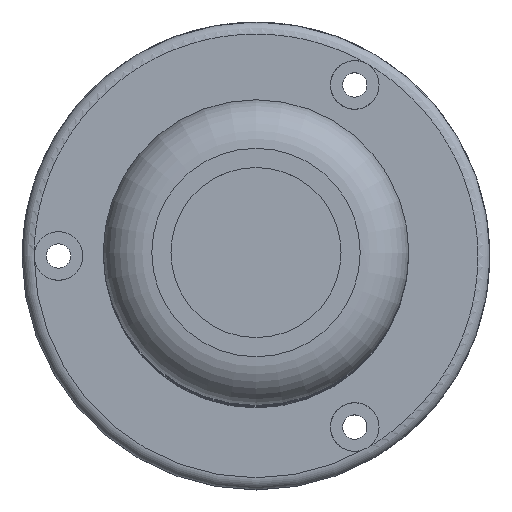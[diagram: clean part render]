
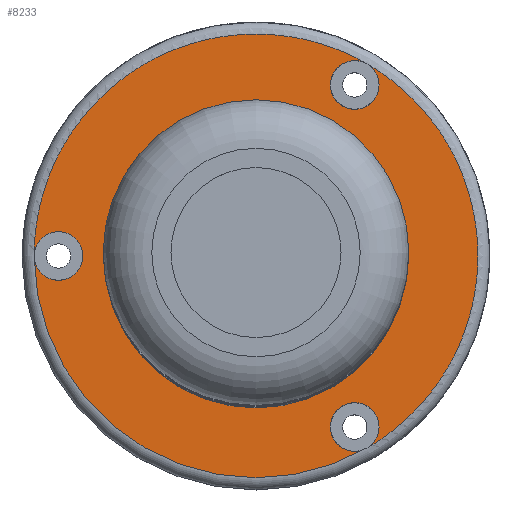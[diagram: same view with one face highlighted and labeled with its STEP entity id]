
A CAD part, top view. The second image highlights one B-rep face of the part: STEP entity #8233.
In plain terms, the highlighted planar face has unit normal (0, 0, -1).
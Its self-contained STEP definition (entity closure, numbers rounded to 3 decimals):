
#6208=PLANE('',#27769);
#7332=FACE_BOUND('',#11487,.T.);
#7333=FACE_BOUND('',#11488,.T.);
#7334=FACE_BOUND('',#11489,.T.);
#7335=FACE_BOUND('',#11490,.T.);
#7336=FACE_BOUND('',#11491,.T.);
#8233=ADVANCED_FACE('',(#7332,#7333,#7334,#7335,#7336),#6208,.T.);
#11487=EDGE_LOOP('',(#15450));
#11488=EDGE_LOOP('',(#15451));
#11489=EDGE_LOOP('',(#15452));
#11490=EDGE_LOOP('',(#15453));
#11491=EDGE_LOOP('',(#15454));
#12821=CIRCLE('',#27753,10.75);
#12829=CIRCLE('',#27765,2.);
#12830=CIRCLE('',#27766,2.);
#12831=CIRCLE('',#27767,2.);
#12832=CIRCLE('',#27768,38.);
#15450=ORIENTED_EDGE('',*,*,#24025,.T.);
#15451=ORIENTED_EDGE('',*,*,#24026,.T.);
#15452=ORIENTED_EDGE('',*,*,#24027,.T.);
#15453=ORIENTED_EDGE('',*,*,#24028,.T.);
#15454=ORIENTED_EDGE('',*,*,#24015,.F.);
#21127=VERTEX_POINT('',#49750);
#21137=VERTEX_POINT('',#49904);
#21138=VERTEX_POINT('',#49906);
#21139=VERTEX_POINT('',#49908);
#21140=VERTEX_POINT('',#49910);
#24015=EDGE_CURVE('',#21127,#21127,#12821,.T.);
#24025=EDGE_CURVE('',#21137,#21137,#12829,.T.);
#24026=EDGE_CURVE('',#21138,#21138,#12830,.T.);
#24027=EDGE_CURVE('',#21139,#21139,#12831,.T.);
#24028=EDGE_CURVE('',#21140,#21140,#12832,.T.);
#27753=AXIS2_PLACEMENT_3D('',#49749,#30944,#30945);
#27765=AXIS2_PLACEMENT_3D('',#49903,#30968,#30969);
#27766=AXIS2_PLACEMENT_3D('',#49905,#30970,#30971);
#27767=AXIS2_PLACEMENT_3D('',#49907,#30972,#30973);
#27768=AXIS2_PLACEMENT_3D('',#49909,#30974,#30975);
#27769=AXIS2_PLACEMENT_3D('',#49911,#30976,#30977);
#30944=DIRECTION('',(0.,0.,-1.));
#30945=DIRECTION('',(-1.,0.,0.));
#30968=DIRECTION('',(0.,0.,1.));
#30969=DIRECTION('',(1.,0.,0.));
#30970=DIRECTION('',(0.,0.,1.));
#30971=DIRECTION('',(1.,0.,0.));
#30972=DIRECTION('',(0.,0.,1.));
#30973=DIRECTION('',(1.,0.,0.));
#30974=DIRECTION('',(0.,0.,-1.));
#30975=DIRECTION('',(-1.,0.,0.));
#30976=DIRECTION('',(0.,0.,-1.));
#30977=DIRECTION('',(1.,0.,0.));
#49749=CARTESIAN_POINT('',(200.,-200.,-167.702));
#49750=CARTESIAN_POINT('',(189.25,-200.,-167.702));
#49903=CARTESIAN_POINT('',(216.25,-171.854,-167.702));
#49904=CARTESIAN_POINT('',(218.25,-171.854,-167.702));
#49905=CARTESIAN_POINT('',(216.25,-228.146,-167.702));
#49906=CARTESIAN_POINT('',(218.25,-228.146,-167.702));
#49907=CARTESIAN_POINT('',(167.5,-200.,-167.702));
#49908=CARTESIAN_POINT('',(169.5,-200.,-167.702));
#49909=CARTESIAN_POINT('',(200.,-200.,-167.702));
#49910=CARTESIAN_POINT('',(162.,-200.,-167.702));
#49911=CARTESIAN_POINT('',(200.,-200.,-167.702));
